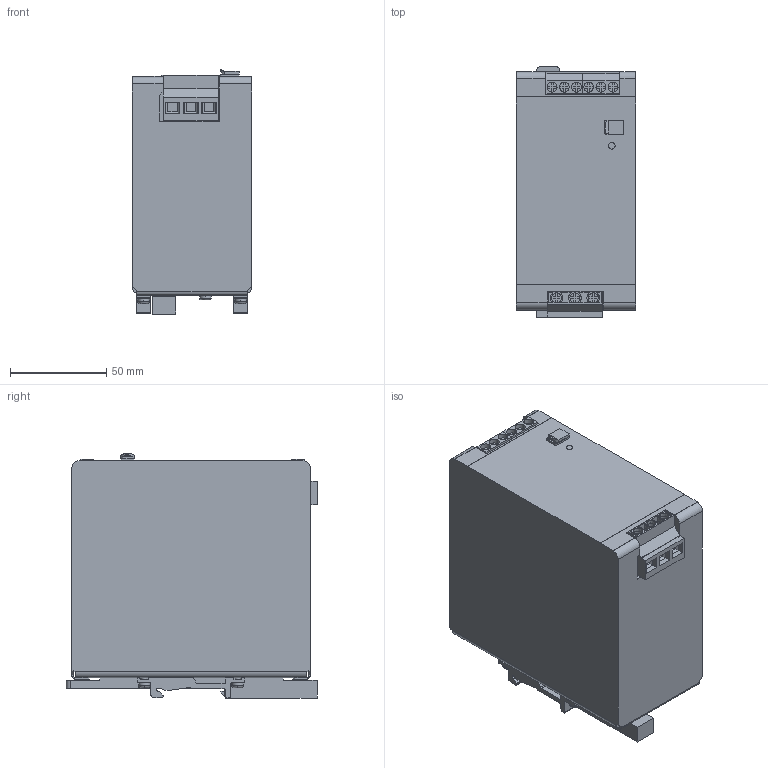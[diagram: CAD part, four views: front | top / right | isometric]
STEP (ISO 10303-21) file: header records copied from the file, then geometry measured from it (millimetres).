
FILE_DESCRIPTION( ( '' ), '1' );
FILE_NAME( '//expscmdclustefs.cadenas.external/client_exchange/iodir/jobs/output/wkb58025801_no0/STEP/DN4013_2_03.stp', '2013-05-15T08:13:26', ( '' ), ( '' ), ' ', ' ', ' ' );
FILE_SCHEMA( ( 'CONFIG_CONTROL_DESIGN' ) );
Length unit declared in the file: millimetre
Products named in the file (1): 1
Bounding box: 62 x 130.79 x 127.13 mm (x, y, z)
Volume: 880891 mm3; surface area: 72132 mm2
Topology: 1 solids, 1 shells, 610 faces, 1701 edges, 1120 vertices
Faces by surface type: plane 465, cylinder 121, torus 12, cone 12
Entity records: 19589 total; most frequent: CARTESIAN_POINT 3592, ORIENTED_EDGE 3402, DIRECTION 3199, EDGE_CURVE 1701, LINE 1377, VECTOR 1377, VERTEX_POINT 1120, AXIS2_PLACEMENT_3D 911
